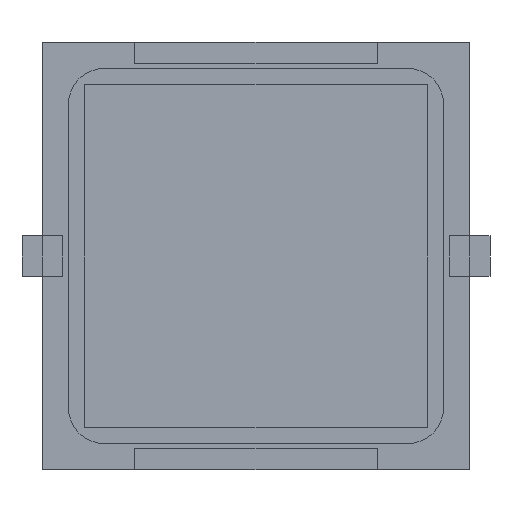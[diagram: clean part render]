
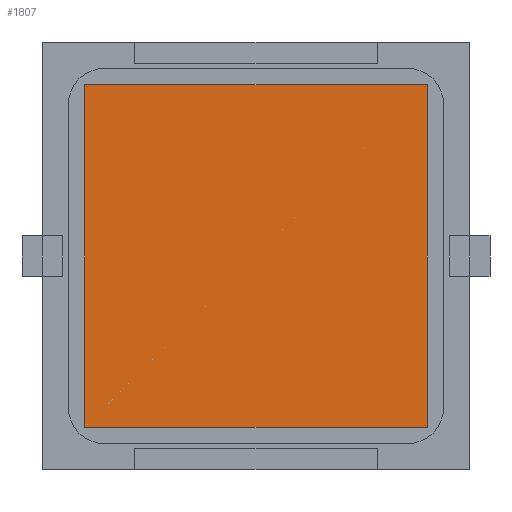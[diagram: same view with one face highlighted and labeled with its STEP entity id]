
A CAD part, front view. The second image highlights one B-rep face of the part: STEP entity #1807.
In plain terms, the highlighted planar face has unit normal (0, -1, 0).
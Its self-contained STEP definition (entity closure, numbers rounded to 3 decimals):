
#118 = DIRECTION ( 'NONE',  ( 0., 0., 1. ) ) ;
#173 = VERTEX_POINT ( 'NONE', #2276 ) ;
#193 = CARTESIAN_POINT ( 'NONE',  ( -8.5, -0.1, -8.5 ) ) ;
#196 = DIRECTION ( 'NONE',  ( 1., 0., 0. ) ) ;
#256 = LINE ( 'NONE', #3259, #1242 ) ;
#303 = DIRECTION ( 'NONE',  ( -1., 0., 0. ) ) ;
#345 = VECTOR ( 'NONE', #196, 1000. ) ;
#587 = LINE ( 'NONE', #3560, #345 ) ;
#639 = ORIENTED_EDGE ( 'NONE', *, *, #2904, .F. ) ;
#681 = DIRECTION ( 'NONE',  ( 0., 0., 1. ) ) ;
#703 = EDGE_CURVE ( 'NONE', #1940, #173, #963, .T. ) ;
#963 = LINE ( 'NONE', #2907, #4755 ) ;
#995 = CARTESIAN_POINT ( 'NONE',  ( -8.5, -0.1, 8.5 ) ) ;
#1019 = DIRECTION ( 'NONE',  ( 0., 1., 0. ) ) ;
#1071 = CARTESIAN_POINT ( 'NONE',  ( 8.5, -0.1, -8.5 ) ) ;
#1242 = VECTOR ( 'NONE', #3092, 1000. ) ;
#1260 = EDGE_CURVE ( 'NONE', #2480, #1346, #256, .T. ) ;
#1346 = VERTEX_POINT ( 'NONE', #1071 ) ;
#1595 = ORIENTED_EDGE ( 'NONE', *, *, #703, .F. ) ;
#1633 = ORIENTED_EDGE ( 'NONE', *, *, #4742, .F. ) ;
#1767 = FACE_OUTER_BOUND ( 'NONE', #4500, .T. ) ;
#1807 = ADVANCED_FACE ( 'NONE', ( #1767 ), #3496, .F. ) ;
#1940 = VERTEX_POINT ( 'NONE', #3734 ) ;
#2276 = CARTESIAN_POINT ( 'NONE',  ( -8.5, -0.1, 8.5 ) ) ;
#2480 = VERTEX_POINT ( 'NONE', #3465 ) ;
#2904 = EDGE_CURVE ( 'NONE', #1346, #1940, #3670, .T. ) ;
#2907 = CARTESIAN_POINT ( 'NONE',  ( -8.5, -0.1, -8.5 ) ) ;
#3092 = DIRECTION ( 'NONE',  ( 0., 0., -1. ) ) ;
#3159 = AXIS2_PLACEMENT_3D ( 'NONE', #995, #1019, #118 ) ;
#3259 = CARTESIAN_POINT ( 'NONE',  ( 8.5, -0.1, -8.5 ) ) ;
#3465 = CARTESIAN_POINT ( 'NONE',  ( 8.5, -0.1, 8.5 ) ) ;
#3496 = PLANE ( 'NONE',  #3159 ) ;
#3560 = CARTESIAN_POINT ( 'NONE',  ( -8.5, -0.1, 8.5 ) ) ;
#3670 = LINE ( 'NONE', #193, #4445 ) ;
#3734 = CARTESIAN_POINT ( 'NONE',  ( -8.5, -0.1, -8.5 ) ) ;
#4445 = VECTOR ( 'NONE', #303, 1000. ) ;
#4500 = EDGE_LOOP ( 'NONE', ( #1595, #639, #4774, #1633 ) ) ;
#4742 = EDGE_CURVE ( 'NONE', #173, #2480, #587, .T. ) ;
#4755 = VECTOR ( 'NONE', #681, 1000. ) ;
#4774 = ORIENTED_EDGE ( 'NONE', *, *, #1260, .F. ) ;
